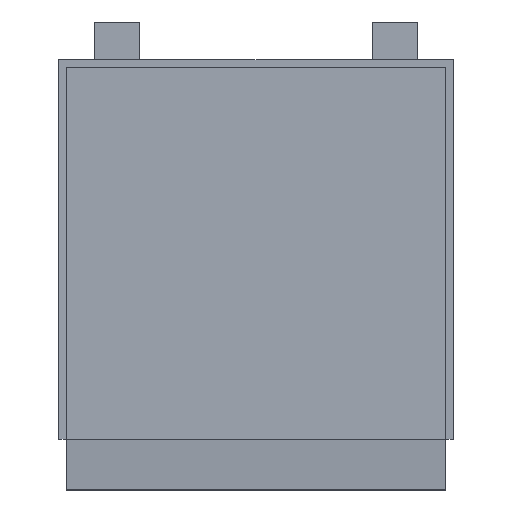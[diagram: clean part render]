
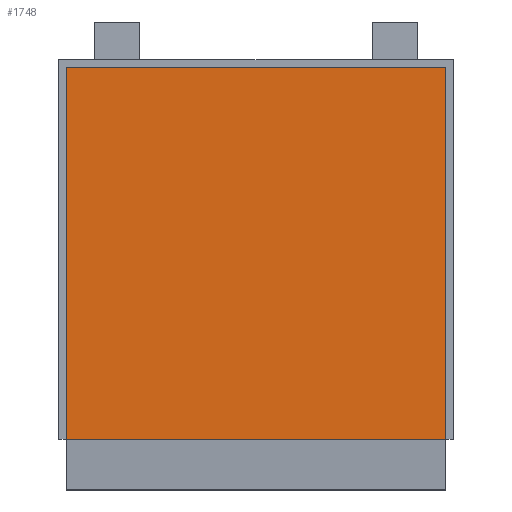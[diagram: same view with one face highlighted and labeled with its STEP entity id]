
A CAD part, top view. The second image highlights one B-rep face of the part: STEP entity #1748.
In plain terms, the highlighted planar face has unit normal (0, 0, 1).
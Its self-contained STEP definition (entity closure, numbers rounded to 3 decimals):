
#189 = VERTEX_POINT('',#190);
#190 = CARTESIAN_POINT('',(-75.,-72.5,2.));
#204 = PLANE('',#205);
#205 = AXIS2_PLACEMENT_3D('',#206,#207,#208);
#206 = CARTESIAN_POINT('',(-75.,-72.5,0.));
#207 = DIRECTION('',(1.,0.,0.));
#208 = DIRECTION('',(0.,0.,1.));
#926 = PLANE('',#927);
#927 = AXIS2_PLACEMENT_3D('',#928,#929,#930);
#928 = CARTESIAN_POINT('',(-78.,74.5,0.));
#929 = DIRECTION('',(0.,1.,0.));
#930 = DIRECTION('',(0.,0.,1.));
#954 = PLANE('',#955);
#955 = AXIS2_PLACEMENT_3D('',#956,#957,#958);
#956 = CARTESIAN_POINT('',(75.,-72.5,0.));
#957 = DIRECTION('',(1.,0.,0.));
#958 = DIRECTION('',(0.,0.,1.));
#1032 = PLANE('',#1033);
#1033 = AXIS2_PLACEMENT_3D('',#1034,#1035,#1036);
#1034 = CARTESIAN_POINT('',(0.,-72.5,2.));
#1035 = DIRECTION('',(0.,0.08,-0.997));
#1036 = DIRECTION('',(0.,-0.997,-0.08));
#1069 = EDGE_CURVE('',#189,#1070,#1072,.T.);
#1070 = VERTEX_POINT('',#1071);
#1071 = CARTESIAN_POINT('',(-75.,74.5,2.));
#1072 = SURFACE_CURVE('',#1073,(#1077,#1084),.PCURVE_S1.);
#1073 = LINE('',#1074,#1075);
#1074 = CARTESIAN_POINT('',(-75.,-72.5,2.));
#1075 = VECTOR('',#1076,1.);
#1076 = DIRECTION('',(0.,1.,0.));
#1077 = PCURVE('',#204,#1078);
#1078 = DEFINITIONAL_REPRESENTATION('',(#1079),#1083);
#1079 = LINE('',#1080,#1081);
#1080 = CARTESIAN_POINT('',(2.,0.));
#1081 = VECTOR('',#1082,1.);
#1082 = DIRECTION('',(0.,-1.));
#1083 = ( GEOMETRIC_REPRESENTATION_CONTEXT(2) 
PARAMETRIC_REPRESENTATION_CONTEXT() REPRESENTATION_CONTEXT('2D SPACE',''
  ) );
#1084 = PCURVE('',#1085,#1090);
#1085 = PLANE('',#1086);
#1086 = AXIS2_PLACEMENT_3D('',#1087,#1088,#1089);
#1087 = CARTESIAN_POINT('',(-78.,-72.5,2.));
#1088 = DIRECTION('',(0.,0.,1.));
#1089 = DIRECTION('',(1.,0.,0.));
#1090 = DEFINITIONAL_REPRESENTATION('',(#1091),#1095);
#1091 = LINE('',#1092,#1093);
#1092 = CARTESIAN_POINT('',(3.,0.));
#1093 = VECTOR('',#1094,1.);
#1094 = DIRECTION('',(0.,1.));
#1095 = ( GEOMETRIC_REPRESENTATION_CONTEXT(2) 
PARAMETRIC_REPRESENTATION_CONTEXT() REPRESENTATION_CONTEXT('2D SPACE',''
  ) );
#1298 = VERTEX_POINT('',#1299);
#1299 = CARTESIAN_POINT('',(75.,-72.5,2.));
#1649 = EDGE_CURVE('',#1070,#1650,#1652,.T.);
#1650 = VERTEX_POINT('',#1651);
#1651 = CARTESIAN_POINT('',(75.,74.5,2.));
#1652 = SURFACE_CURVE('',#1653,(#1657,#1664),.PCURVE_S1.);
#1653 = LINE('',#1654,#1655);
#1654 = CARTESIAN_POINT('',(-75.,74.5,2.));
#1655 = VECTOR('',#1656,1.);
#1656 = DIRECTION('',(1.,0.,0.));
#1657 = PCURVE('',#926,#1658);
#1658 = DEFINITIONAL_REPRESENTATION('',(#1659),#1663);
#1659 = LINE('',#1660,#1661);
#1660 = CARTESIAN_POINT('',(2.,3.));
#1661 = VECTOR('',#1662,1.);
#1662 = DIRECTION('',(0.,1.));
#1663 = ( GEOMETRIC_REPRESENTATION_CONTEXT(2) 
PARAMETRIC_REPRESENTATION_CONTEXT() REPRESENTATION_CONTEXT('2D SPACE',''
  ) );
#1664 = PCURVE('',#1085,#1665);
#1665 = DEFINITIONAL_REPRESENTATION('',(#1666),#1670);
#1666 = LINE('',#1667,#1668);
#1667 = CARTESIAN_POINT('',(3.,147.));
#1668 = VECTOR('',#1669,1.);
#1669 = DIRECTION('',(1.,0.));
#1670 = ( GEOMETRIC_REPRESENTATION_CONTEXT(2) 
PARAMETRIC_REPRESENTATION_CONTEXT() REPRESENTATION_CONTEXT('2D SPACE',''
  ) );
#1699 = EDGE_CURVE('',#1298,#1650,#1700,.T.);
#1700 = SURFACE_CURVE('',#1701,(#1705,#1712),.PCURVE_S1.);
#1701 = LINE('',#1702,#1703);
#1702 = CARTESIAN_POINT('',(75.,-72.5,2.));
#1703 = VECTOR('',#1704,1.);
#1704 = DIRECTION('',(0.,1.,0.));
#1705 = PCURVE('',#954,#1706);
#1706 = DEFINITIONAL_REPRESENTATION('',(#1707),#1711);
#1707 = LINE('',#1708,#1709);
#1708 = CARTESIAN_POINT('',(2.,0.));
#1709 = VECTOR('',#1710,1.);
#1710 = DIRECTION('',(0.,-1.));
#1711 = ( GEOMETRIC_REPRESENTATION_CONTEXT(2) 
PARAMETRIC_REPRESENTATION_CONTEXT() REPRESENTATION_CONTEXT('2D SPACE',''
  ) );
#1712 = PCURVE('',#1085,#1713);
#1713 = DEFINITIONAL_REPRESENTATION('',(#1714),#1718);
#1714 = LINE('',#1715,#1716);
#1715 = CARTESIAN_POINT('',(153.,0.));
#1716 = VECTOR('',#1717,1.);
#1717 = DIRECTION('',(0.,1.));
#1718 = ( GEOMETRIC_REPRESENTATION_CONTEXT(2) 
PARAMETRIC_REPRESENTATION_CONTEXT() REPRESENTATION_CONTEXT('2D SPACE',''
  ) );
#1728 = EDGE_CURVE('',#189,#1298,#1729,.T.);
#1729 = SURFACE_CURVE('',#1730,(#1734,#1741),.PCURVE_S1.);
#1730 = LINE('',#1731,#1732);
#1731 = CARTESIAN_POINT('',(-78.,-72.5,2.));
#1732 = VECTOR('',#1733,1.);
#1733 = DIRECTION('',(1.,0.,0.));
#1734 = PCURVE('',#1032,#1735);
#1735 = DEFINITIONAL_REPRESENTATION('',(#1736),#1740);
#1736 = LINE('',#1737,#1738);
#1737 = CARTESIAN_POINT('',(-0.,78.));
#1738 = VECTOR('',#1739,1.);
#1739 = DIRECTION('',(0.,-1.));
#1740 = ( GEOMETRIC_REPRESENTATION_CONTEXT(2) 
PARAMETRIC_REPRESENTATION_CONTEXT() REPRESENTATION_CONTEXT('2D SPACE',''
  ) );
#1741 = PCURVE('',#1085,#1742);
#1742 = DEFINITIONAL_REPRESENTATION('',(#1743),#1747);
#1743 = LINE('',#1744,#1745);
#1744 = CARTESIAN_POINT('',(0.,0.));
#1745 = VECTOR('',#1746,1.);
#1746 = DIRECTION('',(1.,0.));
#1747 = ( GEOMETRIC_REPRESENTATION_CONTEXT(2) 
PARAMETRIC_REPRESENTATION_CONTEXT() REPRESENTATION_CONTEXT('2D SPACE',''
  ) );
#1748 = ADVANCED_FACE('',(#1749),#1085,.T.);
#1749 = FACE_BOUND('',#1750,.T.);
#1750 = EDGE_LOOP('',(#1751,#1752,#1753,#1754));
#1751 = ORIENTED_EDGE('',*,*,#1649,.F.);
#1752 = ORIENTED_EDGE('',*,*,#1069,.F.);
#1753 = ORIENTED_EDGE('',*,*,#1728,.T.);
#1754 = ORIENTED_EDGE('',*,*,#1699,.T.);
